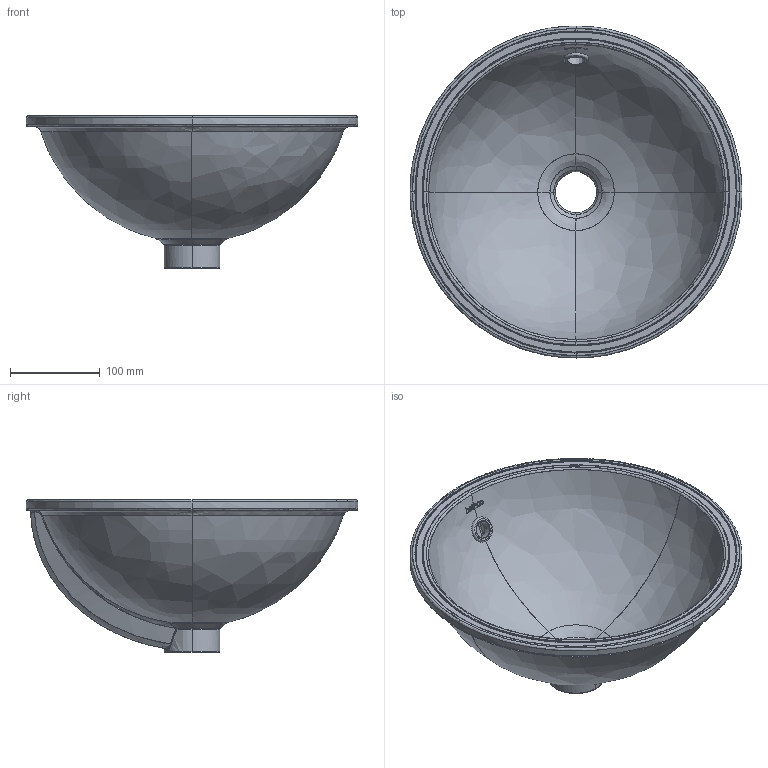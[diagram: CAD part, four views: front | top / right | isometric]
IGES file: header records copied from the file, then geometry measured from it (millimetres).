
Global section: file name: C:\Users\User\Desktop\0052 Cerde; native system: Rhinoceros ( Feb 26 2015 ); preprocessor: Trout Lake IGES 012 Feb 26 2015; date: 200916.122554; units: millimetre
Bounding box: 370 x 370 x 170 mm (x, y, z)
Surface area: 371800.8 mm2 (no closed solid volume)
Topology: 0 solids, 0 shells, 241 faces, 1705 edges, 1690 vertices
Faces by surface type: bspline 241
